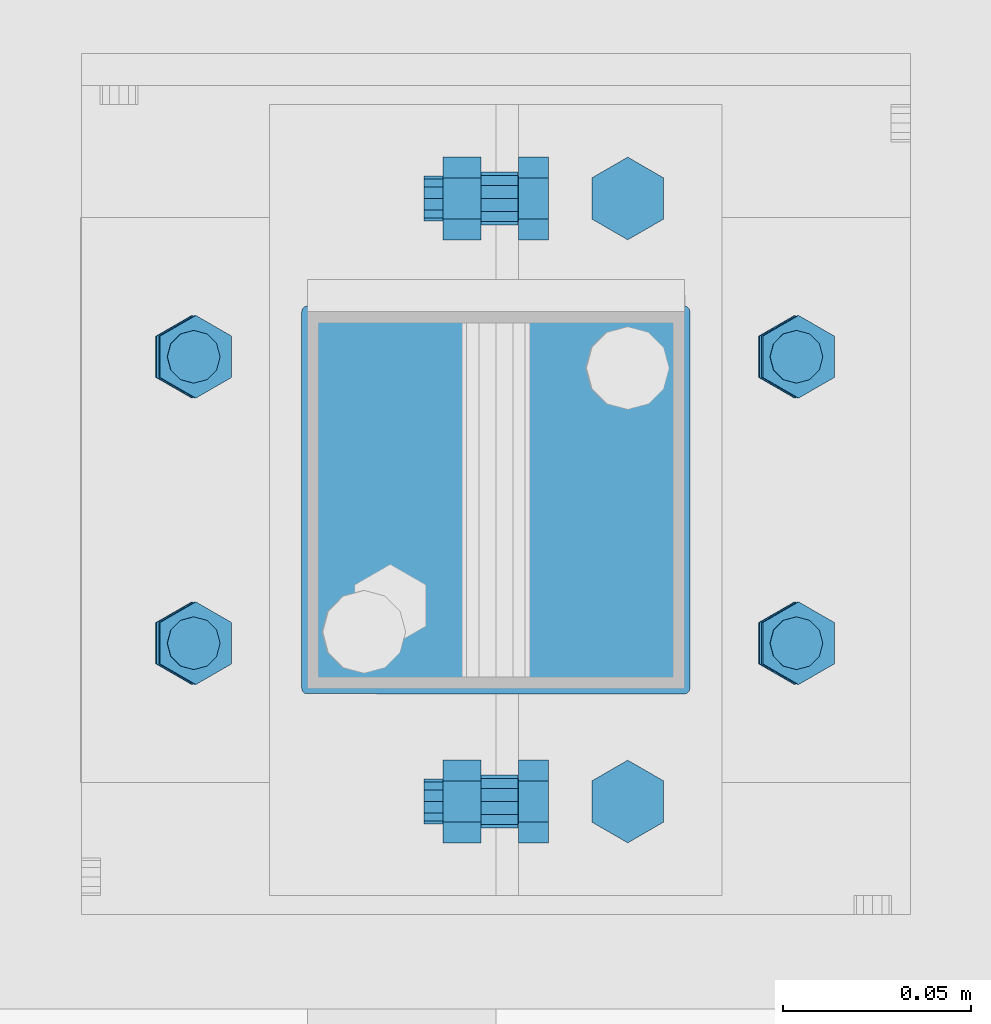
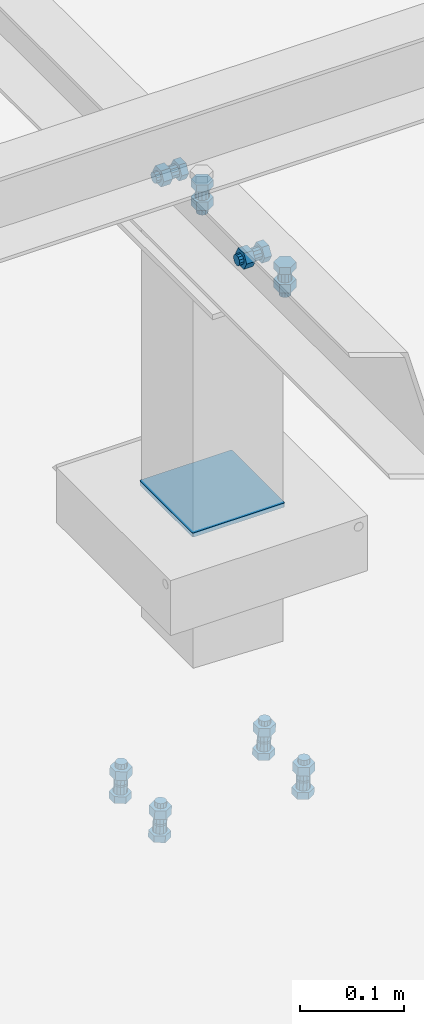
# One storey, part 348 of 3134: 5 mechanical fasteners, 4 elements without a shape of their own.
"""IFC2X3 building model written with IfcOpenShell, lengths in millimetres."""

from ifc_helpers import new_model, si_unit, frame, origin_with_axes, place, context, subcontext, project, spatial, faceted_brep, source, transform, mapped, material, type_object, element, aggregate, save


model = new_model("IFC2X3")

# Units and contexts
model_context = context("Model", 3, precision=1e-05, world=origin_with_axes())
body_context = subcontext(model_context, "Body", "Model", "MODEL_VIEW")
ifc_project = project(units=[si_unit("LENGTHUNIT", "METRE", prefix="MILLI"), si_unit("AREAUNIT", "SQUARE_METRE"), si_unit("VOLUMEUNIT", "CUBIC_METRE"), si_unit("MASSUNIT", "GRAM", prefix="KILO"), si_unit("TIMEUNIT", "SECOND"), si_unit("PLANEANGLEUNIT", "RADIAN"), si_unit("SOLIDANGLEUNIT", "STERADIAN"), si_unit("THERMODYNAMICTEMPERATUREUNIT", "DEGREE_CELSIUS"), si_unit("LUMINOUSINTENSITYUNIT", "LUMEN")], contexts=[model_context])

# Site, building, storey
site_placement = place(None, origin_with_axes())
site = spatial("IfcSite", under=ifc_project, at=site_placement, CompositionType="ELEMENT")
building_placement = place(site_placement, origin_with_axes())
building = spatial("IfcBuilding", under=site, at=building_placement, Name="Undefined", CompositionType="ELEMENT")
storey_placement = place(building_placement, origin_with_axes())
storey = spatial("IfcBuildingStorey", under=building, at=storey_placement, Name="Undefined", CompositionType="ELEMENT", Elevation=0.0)

# Assembly, mechanical fastener
assembly_1_placement = place(storey_placement, origin_with_axes())
assembly_1 = element("IfcElementAssembly", 1, at=assembly_1_placement, inside=storey, AssemblyPlace="NOTDEFINED", PredefinedType="RIGID_FRAME")
ifc_material_1 = material(Name="8.8")
mechanical_fastener_type = type_object("IfcMechanicalFastenerType", Name="Bolt assembly")
shared_shape_1 = source(origin_with_axes(), body_context, "Body", "Brep", [
    faceted_brep([(10.9696551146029, -14.0, 0.0), (5.48482755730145, -14.0, 9.5), (-5.48482755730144, -14.0, 9.5), (-10.9696551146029, -14.0, 1.34339530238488e-15), (-5.48482755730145, -14.0, -9.5), (5.48482755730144, -14.0, -9.50000000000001), (5.48482755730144, -6.0, -9.50000000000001), (-5.48482755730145, -6.0, -9.5), (-10.9696551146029, -6.0, 1.34339530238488e-15), (-5.48482755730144, -6.0, 9.5), (5.48482755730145, -6.0, 9.5), (10.9696551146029, -6.0, 0.0), (6.0, -6.0, 0.0), (5.19615242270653, -6.0, 3.00000000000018), (2.99999999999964, -6.0, 5.19615242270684), (-6.21801588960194e-13, -6.0, 6.0), (-3.00000000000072, -6.0, 5.19615242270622), (-5.19615242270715, -6.0, 2.9999999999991), (-6.0, -6.0, -1.24360317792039e-12), (-5.19615242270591, -6.0, -3.00000000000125), (-2.99999999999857, -6.0, -5.19615242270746), (1.85874342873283e-12, -6.0, -6.0), (3.00000000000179, -6.0, -5.1961524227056), (5.19615242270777, -6.0, -2.99999999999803), (5.19615242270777, 24.0, -2.99999999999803), (3.00000000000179, 24.0, -5.1961524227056), (1.85874342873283e-12, 24.0, -6.0), (-2.99999999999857, 24.0, -5.19615242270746), (-5.19615242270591, 24.0, -3.00000000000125), (-6.0, 24.0, -1.24360317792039e-12), (-5.19615242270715, 24.0, 2.9999999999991), (-3.00000000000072, 24.0, 5.19615242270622), (-6.21801588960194e-13, 24.0, 6.0), (2.99999999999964, 24.0, 5.19615242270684), (5.19615242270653, 24.0, 3.00000000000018), (6.0, 24.0, 0.0), (10.9696551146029, 6.00000000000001, 0.0), (5.48482755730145, 6.00000000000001, 9.5), (-5.48482755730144, 6.00000000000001, 9.5), (-10.9696551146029, 6.00000000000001, 1.34339530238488e-15), (-5.48482755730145, 6.00000000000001, -9.5), (5.48482755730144, 6.00000000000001, -9.50000000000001), (5.48482755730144, 16.0, -9.50000000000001), (-5.48482755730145, 16.0, -9.5), (-10.9696551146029, 16.0, 1.34339530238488e-15), (-5.48482755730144, 16.0, 9.5), (5.48482755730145, 16.0, 9.5), (10.9696551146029, 16.0, 0.0)], [[[0, 1, 2, 3, 4, 5]], [[6, 7, 8, 9, 10, 11]], [[0, 11, 10, 1]], [[1, 10, 9, 2]], [[2, 9, 8, 3]], [[3, 8, 7, 4]], [[4, 7, 6, 5]], [[5, 6, 11, 0]], [[12, 13, 14, 15, 16, 17, 18, 19, 20, 21, 22, 23]], [[24, 25, 26, 27, 28, 29, 30, 31, 32, 33, 34, 35]], [[12, 35, 34, 13]], [[13, 34, 33, 14]], [[14, 33, 32, 15]], [[15, 32, 31, 16]], [[16, 31, 30, 17]], [[17, 30, 29, 18]], [[18, 29, 28, 19]], [[19, 28, 27, 20]], [[20, 27, 26, 21]], [[21, 26, 25, 22]], [[22, 25, 24, 23]], [[23, 24, 35, 12]], [[36, 37, 38, 39, 40, 41]], [[42, 43, 44, 45, 46, 47]], [[36, 47, 46, 37]], [[37, 46, 45, 38]], [[38, 45, 44, 39]], [[39, 44, 43, 40]], [[40, 43, 42, 41]], [[41, 42, 47, 36]]]),
    faceted_brep([(7.0, -5.9, 0.0), (6.06217782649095, -5.9, 3.50000000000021), (3.49999999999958, -5.9, 6.06217782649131), (-7.25435187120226e-13, -5.9, 7.0), (-3.50000000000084, -5.9, 6.06217782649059), (-6.06217782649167, -5.9, 3.49999999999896), (-7.0, -5.9, -1.45087037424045e-12), (-6.06217782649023, -5.9, -3.50000000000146), (-3.49999999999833, -5.9, -6.06217782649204), (2.1685340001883e-12, -5.9, -7.0), (3.50000000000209, -5.9, -6.06217782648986), (6.0621778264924, -5.9, -3.4999999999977), (6.0621778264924, 0.0999999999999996, -3.4999999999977), (3.50000000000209, 0.0999999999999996, -6.06217782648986), (2.1685340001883e-12, 0.0999999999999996, -7.0), (-3.49999999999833, 0.0999999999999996, -6.06217782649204), (-6.06217782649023, 0.0999999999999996, -3.50000000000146), (-7.0, 0.0999999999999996, -1.45087037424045e-12), (-6.06217782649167, 0.0999999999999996, 3.49999999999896), (-3.50000000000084, 0.0999999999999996, 6.06217782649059), (-7.25435187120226e-13, 0.0999999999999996, 7.0), (3.49999999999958, 0.0999999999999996, 6.06217782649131), (6.06217782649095, 0.0999999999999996, 3.50000000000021), (7.0, 0.0999999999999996, 0.0), (7.0, -0.1, 0.0), (6.06217782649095, -0.1, 3.50000000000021), (3.49999999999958, -0.1, 6.06217782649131), (-7.25435187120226e-13, -0.1, 7.0), (-3.50000000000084, -0.1, 6.06217782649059), (-6.06217782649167, -0.1, 3.49999999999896), (-7.0, -0.1, -1.45087037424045e-12), (-6.06217782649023, -0.1, -3.50000000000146), (-3.49999999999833, -0.1, -6.06217782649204), (2.1685340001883e-12, -0.1, -7.0), (3.50000000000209, -0.1, -6.06217782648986), (6.0621778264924, -0.1, -3.4999999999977), (6.0621778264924, 6.00000000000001, -3.4999999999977), (3.50000000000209, 6.00000000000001, -6.06217782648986), (2.1685340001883e-12, 6.00000000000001, -7.0), (-3.49999999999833, 6.00000000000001, -6.06217782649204), (-6.06217782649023, 6.00000000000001, -3.50000000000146), (-7.0, 6.00000000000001, -1.45087037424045e-12), (-6.06217782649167, 6.00000000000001, 3.49999999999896), (-3.50000000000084, 6.00000000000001, 6.06217782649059), (-7.25435187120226e-13, 6.00000000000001, 7.0), (3.49999999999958, 6.00000000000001, 6.06217782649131), (6.06217782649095, 6.00000000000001, 3.50000000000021), (7.0, 6.00000000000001, 0.0)], [[[0, 1, 2, 3, 4, 5, 6, 7, 8, 9, 10, 11]], [[12, 13, 14, 15, 16, 17, 18, 19, 20, 21, 22, 23]], [[0, 23, 22, 1]], [[1, 22, 21, 2]], [[2, 21, 20, 3]], [[3, 20, 19, 4]], [[4, 19, 18, 5]], [[5, 18, 17, 6]], [[6, 17, 16, 7]], [[7, 16, 15, 8]], [[8, 15, 14, 9]], [[9, 14, 13, 10]], [[10, 13, 12, 11]], [[11, 12, 23, 0]], [[24, 25, 26, 27, 28, 29, 30, 31, 32, 33, 34, 35]], [[36, 37, 38, 39, 40, 41, 42, 43, 44, 45, 46, 47]], [[24, 47, 46, 25]], [[25, 46, 45, 26]], [[26, 45, 44, 27]], [[27, 44, 43, 28]], [[28, 43, 42, 29]], [[29, 42, 41, 30]], [[30, 41, 40, 31]], [[31, 40, 39, 32]], [[32, 39, 38, 33]], [[33, 38, 37, 34]], [[34, 37, 36, 35]], [[35, 36, 47, 24]]]),
])
mechanical_fastener_1_placement = place(assembly_1_placement, frame((78060.0, 12290.0, 5750.0), z_axis=(-1.0, 0.0, 0.0), x_axis=(0.0, 1.0, 0.0)))
mechanical_fastener_1 = element("IfcMechanicalFastener", 2, at=mechanical_fastener_1_placement, type_object=mechanical_fastener_type, material=ifc_material_1, Name="Bolt assembly", NominalDiameter=12.0, NominalLength=30.0, context=body_context, shape_type="MappedRepresentation", body=[
    mapped(shared_shape_1, transform((0.0, 0.0, 0.0))),
    mapped(shared_shape_1, transform((160.0, 0.0, 0.0))),
])

assembly_2_placement = place(storey_placement, origin_with_axes())
assembly_2 = element("IfcElementAssembly", 3, at=assembly_2_placement, inside=storey, AssemblyPlace="NOTDEFINED", PredefinedType="RIGID_FRAME")
shared_shape_2 = source(origin_with_axes(), body_context, "Body", "Brep", [
    faceted_brep([(10.9696551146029, -14.0, 0.0), (5.48482755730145, -14.0, 9.5), (-5.48482755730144, -14.0, 9.5), (-10.9696551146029, -14.0, 1.34339530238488e-15), (-5.48482755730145, -14.0, -9.5), (5.48482755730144, -14.0, -9.50000000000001), (5.48482755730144, -6.0, -9.50000000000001), (-5.48482755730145, -6.0, -9.5), (-10.9696551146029, -6.0, 1.34339530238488e-15), (-5.48482755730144, -6.0, 9.5), (5.48482755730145, -6.0, 9.5), (10.9696551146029, -6.0, 0.0), (6.0, -6.0, 0.0), (5.19615242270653, -6.0, 3.00000000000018), (2.99999999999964, -6.0, 5.19615242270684), (-6.21801588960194e-13, -6.0, 6.0), (-3.00000000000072, -6.0, 5.19615242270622), (-5.19615242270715, -6.0, 2.9999999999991), (-6.0, -6.0, -1.24360317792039e-12), (-5.19615242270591, -6.0, -3.00000000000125), (-2.99999999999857, -6.0, -5.19615242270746), (1.85874342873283e-12, -6.0, -6.0), (3.00000000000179, -6.0, -5.1961524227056), (5.19615242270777, -6.0, -2.99999999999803), (5.19615242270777, 19.0, -2.99999999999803), (3.00000000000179, 19.0, -5.1961524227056), (1.85874342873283e-12, 19.0, -6.0), (-2.99999999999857, 19.0, -5.19615242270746), (-5.19615242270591, 19.0, -3.00000000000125), (-6.0, 19.0, -1.24360317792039e-12), (-5.19615242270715, 19.0, 2.9999999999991), (-3.00000000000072, 19.0, 5.19615242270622), (-6.21801588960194e-13, 19.0, 6.0), (2.99999999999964, 19.0, 5.19615242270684), (5.19615242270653, 19.0, 3.00000000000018), (6.0, 19.0, 0.0), (10.9696551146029, 4.00000000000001, 0.0), (5.48482755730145, 4.00000000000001, 9.5), (-5.48482755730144, 4.00000000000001, 9.5), (-10.9696551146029, 4.00000000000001, 1.34339530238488e-15), (-5.48482755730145, 4.00000000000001, -9.5), (5.48482755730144, 4.00000000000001, -9.50000000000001), (5.48482755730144, 14.0, -9.50000000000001), (-5.48482755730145, 14.0, -9.5), (-10.9696551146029, 14.0, 1.34339530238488e-15), (-5.48482755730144, 14.0, 9.5), (5.48482755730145, 14.0, 9.5), (10.9696551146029, 14.0, 0.0)], [[[0, 1, 2, 3, 4, 5]], [[6, 7, 8, 9, 10, 11]], [[0, 11, 10, 1]], [[1, 10, 9, 2]], [[2, 9, 8, 3]], [[3, 8, 7, 4]], [[4, 7, 6, 5]], [[5, 6, 11, 0]], [[12, 13, 14, 15, 16, 17, 18, 19, 20, 21, 22, 23]], [[24, 25, 26, 27, 28, 29, 30, 31, 32, 33, 34, 35]], [[12, 35, 34, 13]], [[13, 34, 33, 14]], [[14, 33, 32, 15]], [[15, 32, 31, 16]], [[16, 31, 30, 17]], [[17, 30, 29, 18]], [[18, 29, 28, 19]], [[19, 28, 27, 20]], [[20, 27, 26, 21]], [[21, 26, 25, 22]], [[22, 25, 24, 23]], [[23, 24, 35, 12]], [[36, 37, 38, 39, 40, 41]], [[42, 43, 44, 45, 46, 47]], [[36, 47, 46, 37]], [[37, 46, 45, 38]], [[38, 45, 44, 39]], [[39, 44, 43, 40]], [[40, 43, 42, 41]], [[41, 42, 47, 36]]]),
    faceted_brep([(7.0, -0.1, 0.0), (6.06217782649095, -0.1, 3.50000000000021), (3.49999999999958, -0.1, 6.06217782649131), (-7.25435187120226e-13, -0.1, 7.0), (-3.50000000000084, -0.1, 6.06217782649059), (-6.06217782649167, -0.1, 3.49999999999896), (-7.0, -0.1, -1.45087037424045e-12), (-6.06217782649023, -0.1, -3.50000000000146), (-3.49999999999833, -0.1, -6.06217782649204), (2.1685340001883e-12, -0.1, -7.0), (3.50000000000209, -0.1, -6.06217782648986), (6.0621778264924, -0.1, -3.4999999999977), (6.0621778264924, 4.00000000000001, -3.4999999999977), (3.50000000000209, 4.00000000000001, -6.06217782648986), (2.1685340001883e-12, 4.00000000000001, -7.0), (-3.49999999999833, 4.00000000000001, -6.06217782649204), (-6.06217782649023, 4.00000000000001, -3.50000000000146), (-7.0, 4.00000000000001, -1.45087037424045e-12), (-6.06217782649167, 4.00000000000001, 3.49999999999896), (-3.50000000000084, 4.00000000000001, 6.06217782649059), (-7.25435187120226e-13, 4.00000000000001, 7.0), (3.49999999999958, 4.00000000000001, 6.06217782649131), (6.06217782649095, 4.00000000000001, 3.50000000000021), (7.0, 4.00000000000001, 0.0), (7.0, -5.9, 0.0), (6.06217782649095, -5.9, 3.50000000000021), (3.49999999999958, -5.9, 6.06217782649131), (-7.25435187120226e-13, -5.9, 7.0), (-3.50000000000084, -5.9, 6.06217782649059), (-6.06217782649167, -5.9, 3.49999999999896), (-7.0, -5.9, -1.45087037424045e-12), (-6.06217782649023, -5.9, -3.50000000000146), (-3.49999999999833, -5.9, -6.06217782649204), (2.1685340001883e-12, -5.9, -7.0), (3.50000000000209, -5.9, -6.06217782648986), (6.0621778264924, -5.9, -3.4999999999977), (6.0621778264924, 0.0999999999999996, -3.4999999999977), (3.50000000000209, 0.0999999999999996, -6.06217782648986), (2.1685340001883e-12, 0.0999999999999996, -7.0), (-3.49999999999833, 0.0999999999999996, -6.06217782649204), (-6.06217782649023, 0.0999999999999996, -3.50000000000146), (-7.0, 0.0999999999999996, -1.45087037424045e-12), (-6.06217782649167, 0.0999999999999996, 3.49999999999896), (-3.50000000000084, 0.0999999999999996, 6.06217782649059), (-7.25435187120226e-13, 0.0999999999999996, 7.0), (3.49999999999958, 0.0999999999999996, 6.06217782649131), (6.06217782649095, 0.0999999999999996, 3.50000000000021), (7.0, 0.0999999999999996, 0.0)], [[[0, 1, 2, 3, 4, 5, 6, 7, 8, 9, 10, 11]], [[12, 13, 14, 15, 16, 17, 18, 19, 20, 21, 22, 23]], [[0, 23, 22, 1]], [[1, 22, 21, 2]], [[2, 21, 20, 3]], [[3, 20, 19, 4]], [[4, 19, 18, 5]], [[5, 18, 17, 6]], [[6, 17, 16, 7]], [[7, 16, 15, 8]], [[8, 15, 14, 9]], [[9, 14, 13, 10]], [[10, 13, 12, 11]], [[11, 12, 23, 0]], [[24, 25, 26, 27, 28, 29, 30, 31, 32, 33, 34, 35]], [[36, 37, 38, 39, 40, 41, 42, 43, 44, 45, 46, 47]], [[24, 47, 46, 25]], [[25, 46, 45, 26]], [[26, 45, 44, 27]], [[27, 44, 43, 28]], [[28, 43, 42, 29]], [[29, 42, 41, 30]], [[30, 41, 40, 31]], [[31, 40, 39, 32]], [[32, 39, 38, 33]], [[33, 38, 37, 34]], [[34, 37, 36, 35]], [[35, 36, 47, 24]]]),
])
mechanical_fastener_2_placement = place(assembly_2_placement, frame((78025.0, 12290.0, 5785.0), z_axis=(0.0, 0.0, 1.0), x_axis=(0.0, 1.0, 0.0)))
mechanical_fastener_2 = element("IfcMechanicalFastener", 4, at=mechanical_fastener_2_placement, type_object=mechanical_fastener_type, material=ifc_material_1, Name="Bolt assembly", NominalDiameter=12.0, NominalLength=25.0, context=body_context, shape_type="MappedRepresentation", body=[
    mapped(shared_shape_2, transform((0.0, 0.0, 0.0))),
    mapped(shared_shape_2, transform((160.0, 0.0, 0.0))),
])
aggregate(assembly_2, [mechanical_fastener_2])

assembly_3_placement = place(storey_placement, origin_with_axes())
assembly_3 = element("IfcElementAssembly", 5, at=assembly_3_placement, inside=storey, AssemblyPlace="NOTDEFINED", PredefinedType="RIGID_FRAME")
shared_shape_3 = source(origin_with_axes(), body_context, "Body", "Brep", [
    faceted_brep([(7.0, 13.0000253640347, 0.0), (6.06217782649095, 13.0000253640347, 3.50000000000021), (3.49999999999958, 13.0000253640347, 6.06217782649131), (-7.25435187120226e-13, 13.0000253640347, 7.0), (-3.50000000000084, 13.0000253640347, 6.06217782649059), (-6.06217782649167, 13.0000253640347, 3.49999999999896), (-7.0, 13.0000253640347, -1.45087037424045e-12), (-6.06217782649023, 13.0000253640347, -3.50000000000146), (-3.49999999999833, 13.0000253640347, -6.06217782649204), (2.1685340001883e-12, 13.0000253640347, -7.0), (3.50000000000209, 13.0000253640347, -6.06217782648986), (6.0621778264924, 13.0000253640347, -3.4999999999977), (6.0621778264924, 15.0999999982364, -3.4999999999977), (3.50000000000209, 15.0999999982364, -6.06217782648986), (2.1685340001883e-12, 15.0999999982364, -7.0), (-3.49999999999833, 15.0999999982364, -6.06217782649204), (-6.06217782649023, 15.0999999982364, -3.50000000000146), (-7.0, 15.0999999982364, -1.45087037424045e-12), (-6.06217782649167, 15.0999999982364, 3.49999999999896), (-3.50000000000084, 15.0999999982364, 6.06217782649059), (-7.25435187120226e-13, 15.0999999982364, 7.0), (3.49999999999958, 15.0999999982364, 6.06217782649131), (6.06217782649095, 15.0999999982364, 3.50000000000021), (7.0, 15.0999999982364, 0.0)], [[[0, 1, 2, 3, 4, 5, 6, 7, 8, 9, 10, 11]], [[12, 13, 14, 15, 16, 17, 18, 19, 20, 21, 22, 23]], [[0, 23, 22, 1]], [[1, 22, 21, 2]], [[2, 21, 20, 3]], [[3, 20, 19, 4]], [[4, 19, 18, 5]], [[5, 18, 17, 6]], [[6, 17, 16, 7]], [[7, 16, 15, 8]], [[8, 15, 14, 9]], [[9, 14, 13, 10]], [[10, 13, 12, 11]], [[11, 12, 23, 0]]]),
])
mechanical_fastener_3_placement = place(assembly_3_placement, frame((78024.3451187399, 12408.0, 5102.2772055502), z_axis=(-0.99951962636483, 0.0, 0.0309922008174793), x_axis=(0.0, -1.0, 0.0)))
mechanical_fastener_3 = element("IfcMechanicalFastener", 6, at=mechanical_fastener_3_placement, type_object=mechanical_fastener_type, material=ifc_material_1, Name="Bolt assembly", NominalDiameter=12.0, NominalLength=2.0, context=body_context, shape_type="MappedRepresentation", body=[
    mapped(shared_shape_3, transform((0.0, -5.32963895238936e-10, -79.9999999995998))),
    mapped(shared_shape_3, transform((76.0, -5.32963895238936e-10, -79.9999999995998))),
    mapped(shared_shape_3, transform((0.0, 5.3114490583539e-10, 79.9999999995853))),
    mapped(shared_shape_3, transform((76.0, 5.3114490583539e-10, 79.9999999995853))),
])
aggregate(assembly_3, [mechanical_fastener_3])

# Mechanical fastener
ifc_material_2 = material(Name="6.8")
shared_shape_4 = source(origin_with_axes(), body_context, "Body", "Brep", [
    faceted_brep([(51.5, 1.36424205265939e-12, 50.0), (51.3858192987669, 1.36424205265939e-12, 50.5740251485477), (51.0606601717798, 1.36424205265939e-12, 51.0606601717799), (50.5740251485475, 1.36424205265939e-12, 51.385819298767), (-50.0000000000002, 1.36424205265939e-12, 51.5), (-50.7500000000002, 1.36424205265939e-12, 51.2990381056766), (-51.2990381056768, 1.36424205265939e-12, 50.7499999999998), (-51.5, 1.36424205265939e-12, 49.9999999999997), (-51.5, 1.36424205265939e-12, -50.0000000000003), (-51.2990381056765, 1.36424205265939e-12, -50.7500000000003), (-50.7499999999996, 1.36424205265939e-12, -51.2990381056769), (-49.9999999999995, 1.36424205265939e-12, -51.5), (50.0000000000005, 1.36424205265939e-12, -51.5), (50.7500000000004, 1.36424205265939e-12, -51.2990381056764), (51.2990381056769, 1.36424205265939e-12, -50.7499999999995), (51.5, 1.36424205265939e-12, -49.9999999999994), (51.5, 5.10000000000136, -49.9999999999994), (51.2990381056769, 5.10000000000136, -50.7499999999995), (50.7500000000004, 5.10000000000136, -51.2990381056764), (50.0000000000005, 5.10000000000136, -51.5), (-49.9999999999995, 5.10000000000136, -51.5), (-50.7499999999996, 5.10000000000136, -51.2990381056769), (-51.2990381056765, 5.10000000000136, -50.7500000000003), (-51.5, 5.10000000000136, -50.0000000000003), (-51.5, 5.10000000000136, 49.9999999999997), (-51.2990381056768, 5.10000000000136, 50.7499999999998), (-50.7500000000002, 5.10000000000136, 51.2990381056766), (-50.0000000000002, 5.10000000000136, 51.5), (50.5740251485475, 5.10000000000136, 51.385819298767), (51.0606601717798, 5.10000000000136, 51.0606601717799), (51.3858192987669, 5.10000000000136, 50.5740251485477), (51.5, 5.10000000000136, 50.0)], [[[0, 1, 2, 3, 4, 5, 6, 7, 8, 9, 10, 11, 12, 13, 14, 15]], [[16, 17, 18, 19, 20, 21, 22, 23, 24, 25, 26, 27, 28, 29, 30, 31]], [[0, 31, 30, 1]], [[1, 30, 29, 2]], [[2, 29, 28, 3]], [[3, 28, 27, 4]], [[4, 27, 26, 5]], [[5, 26, 25, 6]], [[6, 25, 24, 7]], [[7, 24, 23, 8]], [[8, 23, 22, 9]], [[9, 22, 21, 10]], [[10, 21, 20, 11]], [[11, 20, 19, 12]], [[12, 19, 18, 13]], [[13, 18, 17, 14]], [[14, 17, 16, 15]], [[15, 16, 31, 0]]]),
])
mechanical_fastener_4_placement = place(assembly_1_placement, frame((78025.0, 12370.0, 5456.99), z_axis=(0.0, -1.0, 0.0), x_axis=(-1.0, 0.0, 0.0)))
mechanical_fastener_4 = element("IfcMechanicalFastener", 7, at=mechanical_fastener_4_placement, type_object=mechanical_fastener_type, material=ifc_material_2, Name="Bolt assembly", NominalDiameter=10.0, NominalLength=5.0, context=body_context, shape_type="MappedRepresentation", body=[
    mapped(shared_shape_4, transform((0.0, 0.0, 0.0))),
])

aggregate(assembly_1, [mechanical_fastener_1, mechanical_fastener_4])

# Assembly, mechanical fastener
assembly_4_placement = place(storey_placement, origin_with_axes())
assembly_4 = element("IfcElementAssembly", 8, at=assembly_4_placement, inside=storey, Name="300", AssemblyPlace="NOTDEFINED", PredefinedType="RIGID_FRAME")
shared_shape_5 = source(origin_with_axes(), body_context, "Body", "Brep", [
    faceted_brep([(10.9696551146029, -10.2004593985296, 0.0), (5.48482755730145, -10.2004593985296, 9.5), (-5.48482755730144, -10.2004593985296, 9.5), (-10.9696551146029, -10.2004593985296, 1.34339530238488e-15), (-5.48482755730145, -10.2004593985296, -9.5), (5.48482755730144, -10.2004593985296, -9.50000000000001), (5.48482755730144, -2.20045939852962, -9.50000000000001), (-5.48482755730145, -2.20045939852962, -9.5), (-10.9696551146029, -2.20045939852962, 1.34339530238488e-15), (-5.48482755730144, -2.20045939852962, 9.5), (5.48482755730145, -2.20045939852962, 9.5), (10.9696551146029, -2.20045939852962, 0.0), (6.0, -2.20045939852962, 0.0), (5.19615242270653, -2.20045939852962, 3.00000000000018), (2.99999999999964, -2.20045939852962, 5.19615242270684), (-6.21801588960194e-13, -2.20045939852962, 6.0), (-3.00000000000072, -2.20045939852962, 5.19615242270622), (-5.19615242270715, -2.20045939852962, 2.9999999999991), (-6.0, -2.20045939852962, -1.24360317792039e-12), (-5.19615242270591, -2.20045939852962, -3.00000000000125), (-2.99999999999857, -2.20045939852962, -5.19615242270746), (1.85874342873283e-12, -2.20045939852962, -6.0), (3.00000000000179, -2.20045939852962, -5.1961524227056), (5.19615242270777, -2.20045939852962, -2.99999999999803), (5.19615242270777, 32.7995406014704, -2.99999999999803), (3.00000000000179, 32.7995406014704, -5.1961524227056), (1.85874342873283e-12, 32.7995406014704, -6.0), (-2.99999999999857, 32.7995406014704, -5.19615242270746), (-5.19615242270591, 32.7995406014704, -3.00000000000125), (-6.0, 32.7995406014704, -1.24360317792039e-12), (-5.19615242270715, 32.7995406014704, 2.9999999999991), (-3.00000000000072, 32.7995406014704, 5.19615242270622), (-6.21801588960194e-13, 32.7995406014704, 6.0), (2.99999999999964, 32.7995406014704, 5.19615242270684), (5.19615242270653, 32.7995406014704, 3.00000000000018), (6.0, 32.7995406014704, 0.0), (10.9696551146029, 17.0008987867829, 0.0), (5.48482755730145, 17.0008987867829, 9.5), (-5.48482755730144, 17.0008987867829, 9.5), (-10.9696551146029, 17.0008987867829, 1.34339530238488e-15), (-5.48482755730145, 17.0008987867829, -9.5), (5.48482755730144, 17.0008987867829, -9.50000000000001), (5.48482755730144, 27.0008987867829, -9.50000000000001), (-5.48482755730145, 27.0008987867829, -9.5), (-10.9696551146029, 27.0008987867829, 1.34339530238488e-15), (-5.48482755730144, 27.0008987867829, 9.5), (5.48482755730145, 27.0008987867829, 9.5), (10.9696551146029, 27.0008987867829, 0.0)], [[[0, 1, 2, 3, 4, 5]], [[6, 7, 8, 9, 10, 11]], [[0, 11, 10, 1]], [[1, 10, 9, 2]], [[2, 9, 8, 3]], [[3, 8, 7, 4]], [[4, 7, 6, 5]], [[5, 6, 11, 0]], [[12, 13, 14, 15, 16, 17, 18, 19, 20, 21, 22, 23]], [[24, 25, 26, 27, 28, 29, 30, 31, 32, 33, 34, 35]], [[12, 35, 34, 13]], [[13, 34, 33, 14]], [[14, 33, 32, 15]], [[15, 32, 31, 16]], [[16, 31, 30, 17]], [[17, 30, 29, 18]], [[18, 29, 28, 19]], [[19, 28, 27, 20]], [[20, 27, 26, 21]], [[21, 26, 25, 22]], [[22, 25, 24, 23]], [[23, 24, 35, 12]], [[36, 37, 38, 39, 40, 41]], [[42, 43, 44, 45, 46, 47]], [[36, 47, 46, 37]], [[37, 46, 45, 38]], [[38, 45, 44, 39]], [[39, 44, 43, 40]], [[40, 43, 42, 41]], [[41, 42, 47, 36]]]),
    faceted_brep([(7.0, 8.90089878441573, 0.0), (6.06217782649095, 8.90089878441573, 3.50000000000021), (3.49999999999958, 8.90089878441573, 6.06217782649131), (-7.25435187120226e-13, 8.90089878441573, 7.0), (-3.50000000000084, 8.90089878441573, 6.06217782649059), (-6.06217782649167, 8.90089878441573, 3.49999999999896), (-7.0, 8.90089878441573, -1.45087037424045e-12), (-6.06217782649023, 8.90089878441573, -3.50000000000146), (-3.49999999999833, 8.90089878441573, -6.06217782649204), (2.1685340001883e-12, 8.90089878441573, -7.0), (3.50000000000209, 8.90089878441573, -6.06217782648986), (6.0621778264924, 8.90089878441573, -3.4999999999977), (6.0621778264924, 17.0008987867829, -3.4999999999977), (3.50000000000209, 17.0008987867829, -6.06217782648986), (2.1685340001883e-12, 17.0008987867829, -7.0), (-3.49999999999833, 17.0008987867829, -6.06217782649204), (-6.06217782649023, 17.0008987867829, -3.50000000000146), (-7.0, 17.0008987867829, -1.45087037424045e-12), (-6.06217782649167, 17.0008987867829, 3.49999999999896), (-3.50000000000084, 17.0008987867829, 6.06217782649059), (-7.25435187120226e-13, 17.0008987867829, 7.0), (3.49999999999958, 17.0008987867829, 6.06217782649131), (6.06217782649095, 17.0008987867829, 3.50000000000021), (7.0, 17.0008987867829, 0.0), (7.0, -2.10045939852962, 0.0), (6.06217782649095, -2.10045939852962, 3.50000000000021), (3.49999999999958, -2.10045939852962, 6.06217782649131), (-7.25435187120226e-13, -2.10045939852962, 7.0), (-3.50000000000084, -2.10045939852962, 6.06217782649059), (-6.06217782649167, -2.10045939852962, 3.49999999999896), (-7.0, -2.10045939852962, -1.45087037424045e-12), (-6.06217782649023, -2.10045939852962, -3.50000000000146), (-3.49999999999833, -2.10045939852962, -6.06217782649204), (2.1685340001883e-12, -2.10045939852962, -7.0), (3.50000000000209, -2.10045939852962, -6.06217782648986), (6.0621778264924, -2.10045939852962, -3.4999999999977), (6.0621778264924, 7.09954041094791, -3.4999999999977), (3.50000000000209, 7.09954041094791, -6.06217782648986), (2.1685340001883e-12, 7.09954041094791, -7.0), (-3.49999999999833, 7.09954041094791, -6.06217782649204), (-6.06217782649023, 7.09954041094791, -3.50000000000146), (-7.0, 7.09954041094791, -1.45087037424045e-12), (-6.06217782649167, 7.09954041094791, 3.49999999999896), (-3.50000000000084, 7.09954041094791, 6.06217782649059), (-7.25435187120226e-13, 7.09954041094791, 7.0), (3.49999999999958, 7.09954041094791, 6.06217782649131), (6.06217782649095, 7.09954041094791, 3.50000000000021), (7.0, 7.09954041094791, 0.0)], [[[0, 1, 2, 3, 4, 5, 6, 7, 8, 9, 10, 11]], [[12, 13, 14, 15, 16, 17, 18, 19, 20, 21, 22, 23]], [[0, 23, 22, 1]], [[1, 22, 21, 2]], [[2, 21, 20, 3]], [[3, 20, 19, 4]], [[4, 19, 18, 5]], [[5, 18, 17, 6]], [[6, 17, 16, 7]], [[7, 16, 15, 8]], [[8, 15, 14, 9]], [[9, 14, 13, 10]], [[10, 13, 12, 11]], [[11, 12, 23, 0]], [[24, 25, 26, 27, 28, 29, 30, 31, 32, 33, 34, 35]], [[36, 37, 38, 39, 40, 41, 42, 43, 44, 45, 46, 47]], [[24, 47, 46, 25]], [[25, 46, 45, 26]], [[26, 45, 44, 27]], [[27, 44, 43, 28]], [[28, 43, 42, 29]], [[29, 42, 41, 30]], [[30, 41, 40, 31]], [[31, 40, 39, 32]], [[32, 39, 38, 33]], [[33, 38, 37, 34]], [[34, 37, 36, 35]], [[35, 36, 47, 24]]]),
])
mechanical_fastener_5_placement = place(assembly_4_placement, frame((78024.5351187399, 12408.0, 5108.2872055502), z_axis=(-0.99951962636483, 0.0, 0.0309922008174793), x_axis=(0.0, -1.0, 0.0)))
mechanical_fastener_5 = element("IfcMechanicalFastener", 9, at=mechanical_fastener_5_placement, type_object=mechanical_fastener_type, material=ifc_material_1, Name="Bolt assembly", NominalDiameter=12.0, NominalLength=35.0, context=body_context, shape_type="MappedRepresentation", body=[
    mapped(shared_shape_5, transform((0.0, -5.32963895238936e-10, -79.9999999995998))),
    mapped(shared_shape_5, transform((76.0, -5.32963895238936e-10, -79.9999999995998))),
    mapped(shared_shape_5, transform((0.0, 5.3114490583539e-10, 79.9999999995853))),
    mapped(shared_shape_5, transform((76.0, 5.3114490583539e-10, 79.9999999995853))),
])
aggregate(assembly_4, [mechanical_fastener_5])

save(model, "model.ifc")
